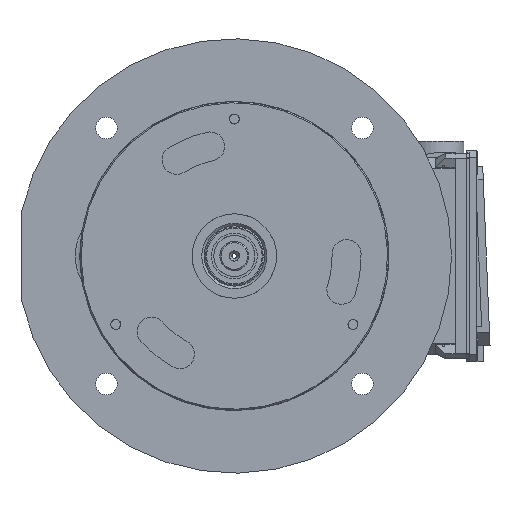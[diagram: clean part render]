
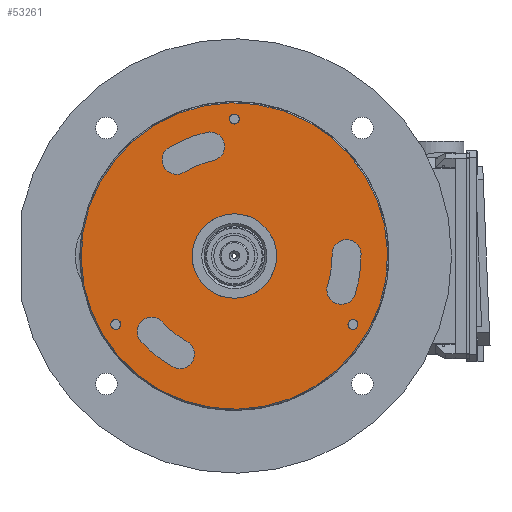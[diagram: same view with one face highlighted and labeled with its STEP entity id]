
A CAD part, front view. The second image highlights one B-rep face of the part: STEP entity #53261.
In plain terms, the highlighted planar face has unit normal (0, -1, 0).
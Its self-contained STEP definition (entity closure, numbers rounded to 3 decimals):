
#1234=PLANE('',#56730);
#2955=FACE_BOUND('',#6867,.T.);
#2956=FACE_BOUND('',#6868,.T.);
#2957=FACE_BOUND('',#6869,.T.);
#2958=FACE_BOUND('',#6870,.T.);
#2959=FACE_BOUND('',#6871,.T.);
#2960=FACE_BOUND('',#6872,.T.);
#2961=FACE_BOUND('',#6873,.T.);
#3857=FACE_OUTER_BOUND('',#6866,.T.);
#6866=EDGE_LOOP('',(#37649));
#6867=EDGE_LOOP('',(#37650,#37651,#37652,#37653));
#6868=EDGE_LOOP('',(#37654,#37655,#37656,#37657));
#6869=EDGE_LOOP('',(#37658,#37659,#37660,#37661));
#6870=EDGE_LOOP('',(#37662));
#6871=EDGE_LOOP('',(#37663));
#6872=EDGE_LOOP('',(#37664));
#6873=EDGE_LOOP('',(#37665));
#10498=CIRCLE('',#56729,6.35);
#10499=CIRCLE('',#56731,0.6);
#10500=CIRCLE('',#56732,4.05);
#10501=CIRCLE('',#56733,0.6);
#10502=CIRCLE('',#56734,5.25);
#10503=CIRCLE('',#56735,0.6);
#10504=CIRCLE('',#56736,4.05);
#10505=CIRCLE('',#56737,0.6);
#10506=CIRCLE('',#56738,5.25);
#10507=CIRCLE('',#56739,0.6);
#10508=CIRCLE('',#56740,4.05);
#10509=CIRCLE('',#56741,0.6);
#10510=CIRCLE('',#56742,5.25);
#10511=CIRCLE('',#56743,1.75);
#10512=CIRCLE('',#56744,0.207);
#10513=CIRCLE('',#56745,0.207);
#10514=CIRCLE('',#56746,0.207);
#22711=VERTEX_POINT('',#79786);
#22712=VERTEX_POINT('',#79790);
#22713=VERTEX_POINT('',#79791);
#22714=VERTEX_POINT('',#79793);
#22715=VERTEX_POINT('',#79795);
#22716=VERTEX_POINT('',#79798);
#22717=VERTEX_POINT('',#79799);
#22718=VERTEX_POINT('',#79801);
#22719=VERTEX_POINT('',#79803);
#22720=VERTEX_POINT('',#79806);
#22721=VERTEX_POINT('',#79807);
#22722=VERTEX_POINT('',#79809);
#22723=VERTEX_POINT('',#79811);
#22724=VERTEX_POINT('',#79814);
#22725=VERTEX_POINT('',#79816);
#22726=VERTEX_POINT('',#79818);
#22727=VERTEX_POINT('',#79820);
#28327=EDGE_CURVE('',#22711,#22711,#10498,.T.);
#28329=EDGE_CURVE('',#22712,#22713,#10499,.T.);
#28330=EDGE_CURVE('',#22713,#22714,#10500,.T.);
#28331=EDGE_CURVE('',#22714,#22715,#10501,.T.);
#28332=EDGE_CURVE('',#22715,#22712,#10502,.T.);
#28333=EDGE_CURVE('',#22716,#22717,#10503,.T.);
#28334=EDGE_CURVE('',#22717,#22718,#10504,.T.);
#28335=EDGE_CURVE('',#22718,#22719,#10505,.T.);
#28336=EDGE_CURVE('',#22719,#22716,#10506,.T.);
#28337=EDGE_CURVE('',#22720,#22721,#10507,.T.);
#28338=EDGE_CURVE('',#22721,#22722,#10508,.T.);
#28339=EDGE_CURVE('',#22722,#22723,#10509,.T.);
#28340=EDGE_CURVE('',#22723,#22720,#10510,.T.);
#28341=EDGE_CURVE('',#22724,#22724,#10511,.T.);
#28342=EDGE_CURVE('',#22725,#22725,#10512,.T.);
#28343=EDGE_CURVE('',#22726,#22726,#10513,.T.);
#28344=EDGE_CURVE('',#22727,#22727,#10514,.T.);
#37649=ORIENTED_EDGE('',*,*,#28327,.F.);
#37650=ORIENTED_EDGE('',*,*,#28329,.T.);
#37651=ORIENTED_EDGE('',*,*,#28330,.T.);
#37652=ORIENTED_EDGE('',*,*,#28331,.T.);
#37653=ORIENTED_EDGE('',*,*,#28332,.T.);
#37654=ORIENTED_EDGE('',*,*,#28333,.T.);
#37655=ORIENTED_EDGE('',*,*,#28334,.T.);
#37656=ORIENTED_EDGE('',*,*,#28335,.T.);
#37657=ORIENTED_EDGE('',*,*,#28336,.T.);
#37658=ORIENTED_EDGE('',*,*,#28337,.T.);
#37659=ORIENTED_EDGE('',*,*,#28338,.T.);
#37660=ORIENTED_EDGE('',*,*,#28339,.T.);
#37661=ORIENTED_EDGE('',*,*,#28340,.T.);
#37662=ORIENTED_EDGE('',*,*,#28341,.T.);
#37663=ORIENTED_EDGE('',*,*,#28342,.T.);
#37664=ORIENTED_EDGE('',*,*,#28343,.T.);
#37665=ORIENTED_EDGE('',*,*,#28344,.T.);
#53261=ADVANCED_FACE('',(#3857,#2955,#2956,#2957,#2958,#2959,#2960,#2961),
#1234,.F.);
#56729=AXIS2_PLACEMENT_3D('',#79787,#63528,#63529);
#56730=AXIS2_PLACEMENT_3D('',#79789,#63531,#63532);
#56731=AXIS2_PLACEMENT_3D('',#79792,#63533,#63534);
#56732=AXIS2_PLACEMENT_3D('',#79794,#63535,#63536);
#56733=AXIS2_PLACEMENT_3D('',#79796,#63537,#63538);
#56734=AXIS2_PLACEMENT_3D('',#79797,#63539,#63540);
#56735=AXIS2_PLACEMENT_3D('',#79800,#63541,#63542);
#56736=AXIS2_PLACEMENT_3D('',#79802,#63543,#63544);
#56737=AXIS2_PLACEMENT_3D('',#79804,#63545,#63546);
#56738=AXIS2_PLACEMENT_3D('',#79805,#63547,#63548);
#56739=AXIS2_PLACEMENT_3D('',#79808,#63549,#63550);
#56740=AXIS2_PLACEMENT_3D('',#79810,#63551,#63552);
#56741=AXIS2_PLACEMENT_3D('',#79812,#63553,#63554);
#56742=AXIS2_PLACEMENT_3D('',#79813,#63555,#63556);
#56743=AXIS2_PLACEMENT_3D('',#79815,#63557,#63558);
#56744=AXIS2_PLACEMENT_3D('',#79817,#63559,#63560);
#56745=AXIS2_PLACEMENT_3D('',#79819,#63561,#63562);
#56746=AXIS2_PLACEMENT_3D('',#79821,#63563,#63564);
#63528=DIRECTION('center_axis',(0.,1.,0.));
#63529=DIRECTION('ref_axis',(0.023,0.,-1.));
#63531=DIRECTION('center_axis',(0.,1.,0.));
#63532=DIRECTION('ref_axis',(-1.,0.,-0.023));
#63533=DIRECTION('center_axis',(0.,1.,0.));
#63534=DIRECTION('ref_axis',(-0.738,0.,-0.675));
#63535=DIRECTION('center_axis',(0.,-1.,0.));
#63536=DIRECTION('ref_axis',(-0.738,0.,-0.675));
#63537=DIRECTION('center_axis',(0.,1.,0.));
#63538=DIRECTION('ref_axis',(0.485,0.,0.875));
#63539=DIRECTION('center_axis',(0.,1.,0.));
#63540=DIRECTION('ref_axis',(0.738,0.,0.675));
#63541=DIRECTION('center_axis',(0.,1.,0.));
#63542=DIRECTION('ref_axis',(-0.215,0.,0.977));
#63543=DIRECTION('center_axis',(0.,-1.,0.));
#63544=DIRECTION('ref_axis',(-0.215,0.,0.977));
#63545=DIRECTION('center_axis',(0.,1.,0.));
#63546=DIRECTION('ref_axis',(0.515,0.,-0.857));
#63547=DIRECTION('center_axis',(0.,1.,0.));
#63548=DIRECTION('ref_axis',(0.215,0.,-0.977));
#63549=DIRECTION('center_axis',(0.,1.,0.));
#63550=DIRECTION('ref_axis',(0.953,0.,-0.302));
#63551=DIRECTION('center_axis',(0.,-1.,0.));
#63552=DIRECTION('ref_axis',(0.953,0.,-0.302));
#63553=DIRECTION('center_axis',(0.,1.,0.));
#63554=DIRECTION('ref_axis',(-1.,0.,-0.018));
#63555=DIRECTION('center_axis',(0.,1.,0.));
#63556=DIRECTION('ref_axis',(-0.953,0.,0.302));
#63557=DIRECTION('center_axis',(0.,1.,0.));
#63558=DIRECTION('ref_axis',(0.023,0.,-1.));
#63559=DIRECTION('center_axis',(0.,1.,0.));
#63560=DIRECTION('ref_axis',(-0.023,0.,
1.));
#63561=DIRECTION('center_axis',(0.,1.,0.));
#63562=DIRECTION('ref_axis',(0.877,0.,-0.48));
#63563=DIRECTION('center_axis',(0.,1.,0.));
#63564=DIRECTION('ref_axis',(-0.854,0.,-0.519));
#79786=CARTESIAN_POINT('',(-0.144,-26.401,6.348));
#79787=CARTESIAN_POINT('Origin',(0.,-26.401,
0.));
#79789=CARTESIAN_POINT('Origin',(0.,-26.401,
0.));
#79790=CARTESIAN_POINT('',(-3.874,-26.401,-3.543));
#79791=CARTESIAN_POINT('',(-2.989,-26.401,-2.733));
#79792=CARTESIAN_POINT('Origin',(-3.432,-26.401,-3.138));
#79793=CARTESIAN_POINT('',(-1.963,-26.401,-3.542));
#79794=CARTESIAN_POINT('Origin',(0.,-26.401,
0.));
#79795=CARTESIAN_POINT('',(-2.545,-26.401,-4.592));
#79796=CARTESIAN_POINT('Origin',(-2.254,-26.401,-4.067));
#79797=CARTESIAN_POINT('Origin',(0.,-26.401,
0.));
#79798=CARTESIAN_POINT('',(-1.131,-26.401,5.127));
#79799=CARTESIAN_POINT('',(-0.873,-26.401,3.955));
#79800=CARTESIAN_POINT('Origin',(-1.002,-26.401,4.541));
#79801=CARTESIAN_POINT('',(-2.086,-26.401,3.471));
#79802=CARTESIAN_POINT('Origin',(0.,-26.401,
0.));
#79803=CARTESIAN_POINT('',(-2.704,-26.401,4.5));
#79804=CARTESIAN_POINT('Origin',(-2.395,-26.401,3.986));
#79805=CARTESIAN_POINT('Origin',(0.,-26.401,
0.));
#79806=CARTESIAN_POINT('',(5.005,-26.401,-1.584));
#79807=CARTESIAN_POINT('',(3.861,-26.401,-1.222));
#79808=CARTESIAN_POINT('Origin',(4.433,-26.401,-1.403));
#79809=CARTESIAN_POINT('',(4.049,-26.401,0.071));
#79810=CARTESIAN_POINT('Origin',(0.,-26.401,
0.));
#79811=CARTESIAN_POINT('',(5.249,-26.401,0.092));
#79812=CARTESIAN_POINT('Origin',(4.649,-26.401,0.082));
#79813=CARTESIAN_POINT('Origin',(0.,-26.401,
0.));
#79814=CARTESIAN_POINT('',(-0.04,-26.401,1.75));
#79815=CARTESIAN_POINT('Origin',(0.,-26.401,
0.));
#79816=CARTESIAN_POINT('',(-4.91,-26.401,-3.044));
#79817=CARTESIAN_POINT('Origin',(-4.915,-26.401,-2.837));
#79818=CARTESIAN_POINT('',(-0.181,-26.401,5.774));
#79819=CARTESIAN_POINT('Origin',(0.,-26.401,
5.675));
#79820=CARTESIAN_POINT('',(5.091,-26.401,-2.73));
#79821=CARTESIAN_POINT('Origin',(4.915,-26.401,-2.838));
